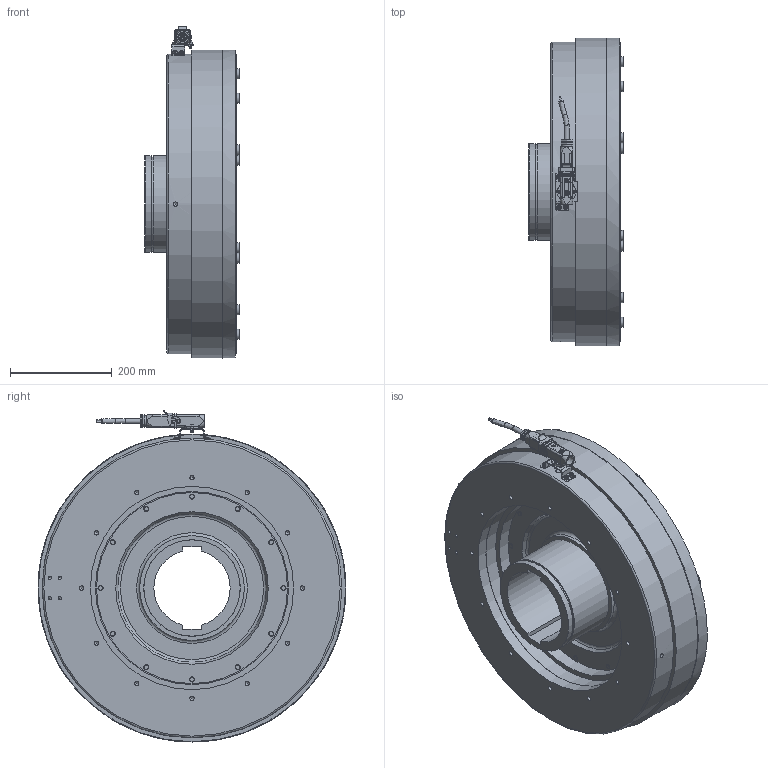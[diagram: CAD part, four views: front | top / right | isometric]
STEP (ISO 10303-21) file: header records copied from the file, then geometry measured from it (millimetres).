
FILE_DESCRIPTION(/* description */ (''),/* implementation_level */ '2;1');
FILE_NAME(/* name */ 'X:\INVENTOR\DISEGNI\08_Freni_Friz_Elettmag_Monodisco\08_26 EMSL_DF\EMSL_DF STEP\08_26_600_21 EMSL600_DF-BM_S@STEP.stp',/* time_stamp */ '2018-04-24T08:32:51+02:00',/* author */ ('stefano'),/* organization */ (''),/* preprocessor_version */ 'ST-DEVELOPER v17',/* originating_system */ 'Autodesk Inventor 2018',/* authorisation */ '');
FILE_SCHEMA (('AUTOMOTIVE_DESIGN { 1 0 10303 214 3 1 1 }'));
Length unit declared in the file: millimetre
Products named in the file (1): 08_26_600_21 EMSL600_DF-BM - Spina_Substitute_1
Bounding box: 185 x 606 x 653.32 mm (x, y, z)
Volume: 24340879.1 mm3; surface area: 2333798.7 mm2
Topology: 4 solids, 4 shells, 1873 faces, 5335 edges, 3578 vertices
Faces by surface type: plane 1108, cylinder 570, cone 135, torus 36, bspline 21, sphere 3
Full cylindrical faces by diameter (mm): 0.35 x1, 0.491 x1, 0.753 x1, 0.95 x1, 0.986 x1, 1.05 x1, 2.5 x2, 3 x4, 3.2 x1, 3.25 x2, 3.59 x3, 4 x3, 4.675 x2, 4.8 x2, 5 x20, 5.25 x4, 5.5 x2, 6 x6, 6.2 x1, 6.647 x4, 7 x1, 7.9 x2, 8.2 x2, 8.376 x13, 8.5 x4, 9.5 x2, 10 x12, 12 x1, 13.5 x2, 14 x16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
Entity records: 64726 total; most frequent: CARTESIAN_POINT 12322, DIRECTION 10736, ORIENTED_EDGE 10594, EDGE_CURVE 5297, AXIS2_PLACEMENT_3D 3832, VERTEX_POINT 3578, LINE 3072, VECTOR 3072
